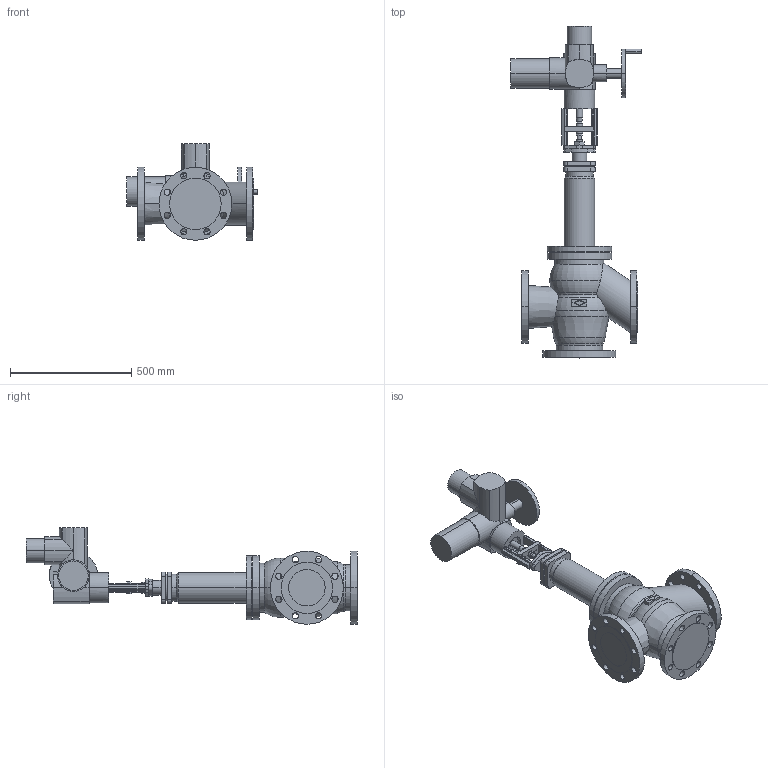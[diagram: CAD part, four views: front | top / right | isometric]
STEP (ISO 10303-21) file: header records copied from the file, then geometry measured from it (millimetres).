
FILE_DESCRIPTION(('OneSpaceDesigner STEP Export'),'2;1');
FILE_NAME('c000003227.stp','2007-01-25T11:55:48',(''),(''),'OneSpace Designer STEP processor for AP214 (Solid Model)','OneSpace Designer 14.00B 27-May-2006 (C) CoCreate Software GmbH','');
FILE_SCHEMA(('AUTOMOTIVE_DESIGN { 1 0 10303 214 1 1 1 1 }'));
Length unit declared in the file: millimetre
Products named in the file (2): 1; 2
Bounding box: 536 x 1366.2 x 397 mm (x, y, z)
Volume: 44153941.3 mm3; surface area: 1680911.9 mm2
Topology: 2 solids, 2 shells, 365 faces, 928 edges, 591 vertices
Faces by surface type: cylinder 180, plane 159, torus 16, cone 10
Entity records: 10521 total; most frequent: CARTESIAN_POINT 2278, ORIENTED_EDGE 1856, DIRECTION 1528, EDGE_CURVE 928, VERTEX_POINT 591, AXIS2_PLACEMENT_3D 533, VECTOR 462, LINE 462
